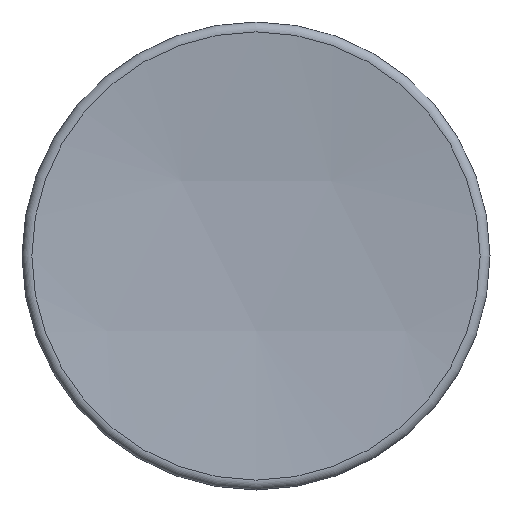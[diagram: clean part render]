
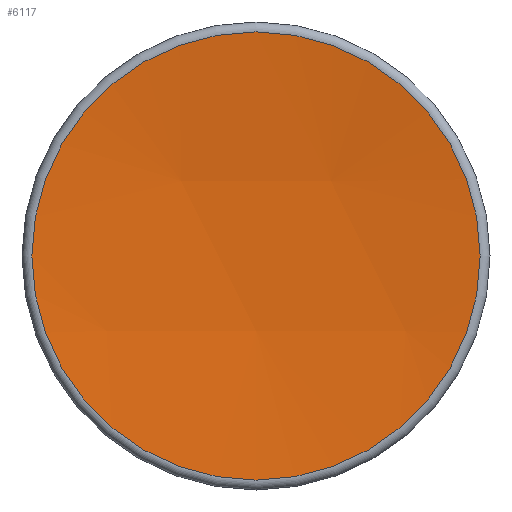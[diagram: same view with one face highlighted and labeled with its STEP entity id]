
A CAD part, front view. The second image highlights one B-rep face of the part: STEP entity #6117.
In plain terms, the highlighted spherical face has radius 600 mm.
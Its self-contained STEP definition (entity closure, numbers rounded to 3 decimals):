
#19=SPHERICAL_SURFACE('',#6921,600.);
#774=CIRCLE('',#6918,76.617);
#775=CIRCLE('',#6919,76.617);
#1194=FACE_OUTER_BOUND('',#1585,.T.);
#1585=EDGE_LOOP('',(#5317,#5318));
#2699=VERTEX_POINT('',#13312);
#2700=VERTEX_POINT('',#13313);
#3572=EDGE_CURVE('',#2699,#2700,#774,.T.);
#3573=EDGE_CURVE('',#2700,#2699,#775,.T.);
#5317=ORIENTED_EDGE('',*,*,#3572,.T.);
#5318=ORIENTED_EDGE('',*,*,#3573,.T.);
#6117=ADVANCED_FACE('',(#1194),#19,.F.);
#6918=AXIS2_PLACEMENT_3D('',#13314,#8681,#8682);
#6919=AXIS2_PLACEMENT_3D('',#13315,#8683,#8684);
#6921=AXIS2_PLACEMENT_3D('',#13317,#8687,#8688);
#8681=DIRECTION('center_axis',(0.,-1.,0.));
#8682=DIRECTION('ref_axis',(-1.,0.,0.));
#8683=DIRECTION('center_axis',(0.,-1.,0.));
#8684=DIRECTION('ref_axis',(-1.,0.,0.));
#8687=DIRECTION('center_axis',(0.,0.,
1.));
#8688=DIRECTION('ref_axis',(-1.,0.,0.));
#13312=CARTESIAN_POINT('',(0.,-230.625,76.617));
#13313=CARTESIAN_POINT('',(0.,-230.625,-76.617));
#13314=CARTESIAN_POINT('Origin',(0.,-230.625,
0.));
#13315=CARTESIAN_POINT('Origin',(0.,-230.625,
0.));
#13317=CARTESIAN_POINT('Origin',(0.,-825.713,
0.));
